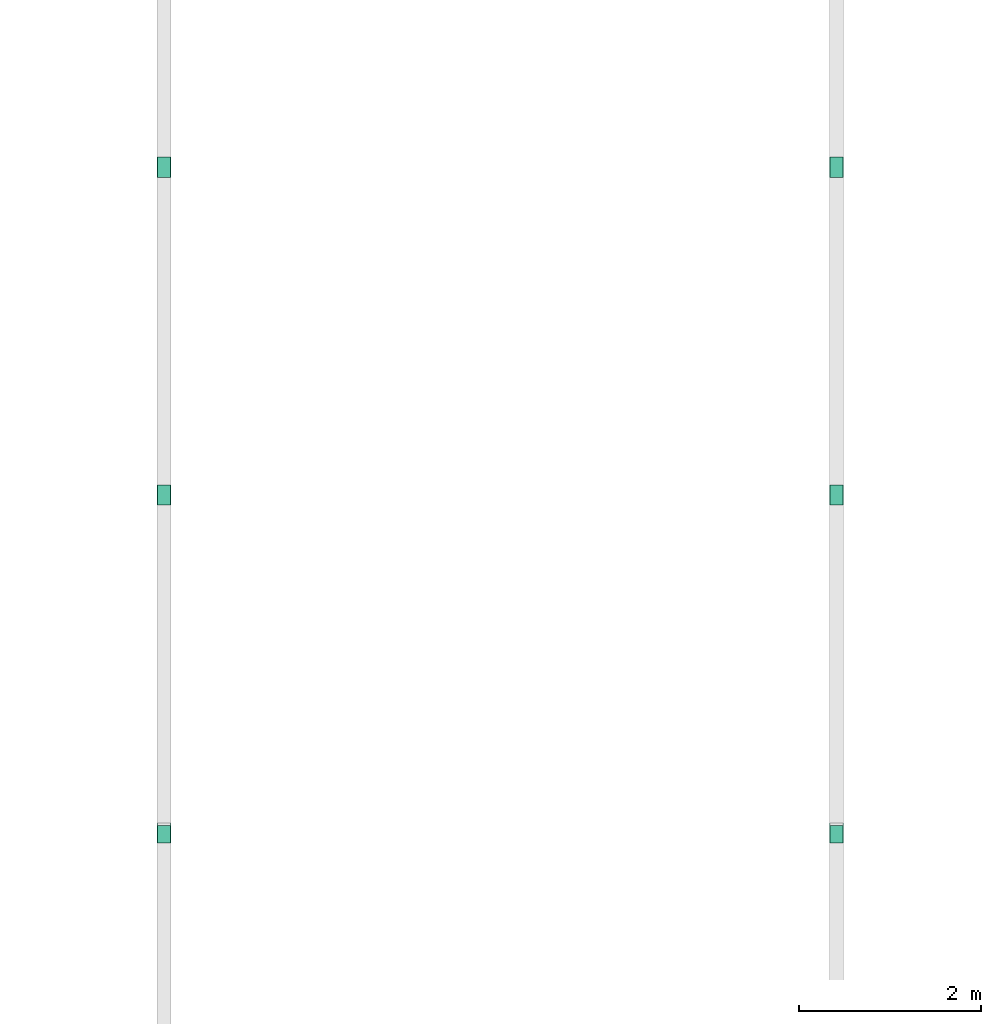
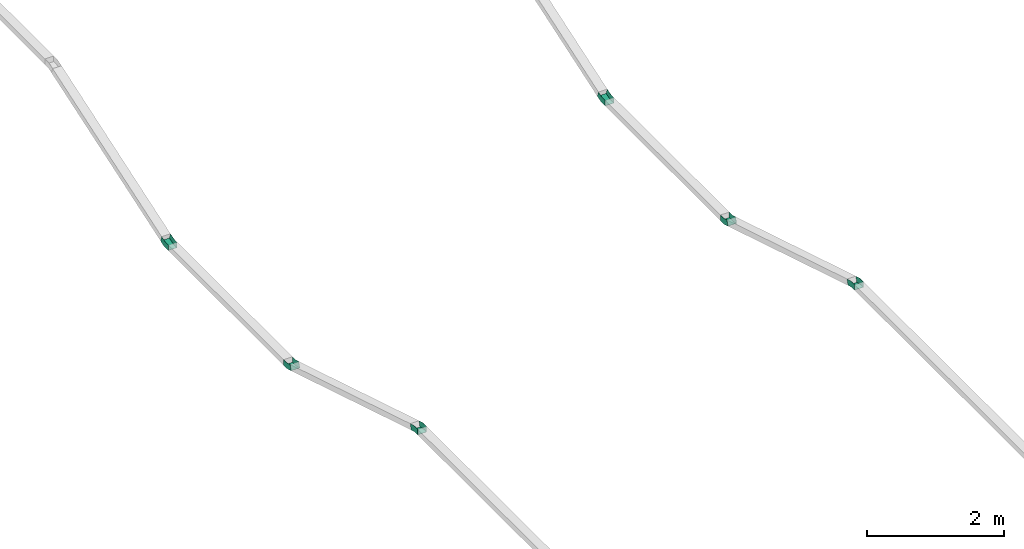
# One storey, part 40 of 197: 6 flow fittings.
"""IFC2X3 building model written with IfcOpenShell, lengths in metres."""

from ifc_helpers import new_model, entity, si_unit, converted_unit, direction, frame, origin, place, context, subcontext, project, spatial, faceted_brep, source, transform, mapped, material, type_object, type_shapes, element, save


model = new_model("IFC2X3")

# Units and contexts
model_context = context("Model", 3, precision=1e-05, world=origin(), true_north=direction((6.123031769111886e-17, 1.0)))
body_context = subcontext(model_context, "Body", "Model", "MODEL_VIEW")
ifc_project = project(units=[si_unit("LENGTHUNIT", "METRE"), converted_unit("PLANEANGLEUNIT", "DEGREE", entity("IfcPlaneAngleMeasure", 0.017453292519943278), si_unit("PLANEANGLEUNIT", "RADIAN"), dimensions=[0, 0, 0, 0, 0, 0, 0]), si_unit("AREAUNIT", "SQUARE_METRE")], contexts=[model_context])

# Site, building, storey
site_placement = place(None, origin())
site = spatial("IfcSite", under=ifc_project, at=site_placement, Name="Default", CompositionType="ELEMENT")
building_placement = place(site_placement, origin())
building = spatial("IfcBuilding", under=site, at=building_placement, CompositionType="ELEMENT")
storey_placement = place(building_placement, origin())
storey = spatial("IfcBuildingStorey", under=building, at=storey_placement, Name="Niveau 0", CompositionType="ELEMENT", Elevation=0.0)

# Flow fittings
ifc_material = material(Name="<Unnamed>")
cable_carrier_fitting_type_1 = type_object("IfcCableCarrierFittingType", Name="Chemin de câbles - Courbure convexe:CDC CFO", PredefinedType="NOTDEFINED", material=ifc_material)
shared_shape_1 = source(origin(), body_context, "Body", "Brep", [
    faceted_brep([(-0.10489020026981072, -0.050000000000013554, -0.07500000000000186), (-0.10489020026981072, -0.050000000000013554, -0.07246000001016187), (-0.10489020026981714, 0.04746000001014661, -0.07246000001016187), (-0.10489020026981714, 0.047460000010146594, 0.07246000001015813), (-0.10489020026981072, -0.050000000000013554, 0.07246000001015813), (-0.10489020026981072, -0.050000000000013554, 0.07499999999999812), (-0.10489020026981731, 0.04999999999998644, 0.07499999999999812), (-0.10489020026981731, 0.04999999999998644, -0.07500000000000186), (-0.029890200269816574, -0.050000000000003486, 0.07499999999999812), (-0.021295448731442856, -0.04936129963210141, 0.07499999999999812), (-0.011414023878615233, -0.048626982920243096, 0.07499999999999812), (-0.00217593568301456, -0.0479404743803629, 0.07499999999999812), (0.007062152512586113, -0.0472539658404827, 0.07499999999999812), (0.016097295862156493, -0.045209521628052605, 0.07499999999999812), (0.025132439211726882, -0.04316507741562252, 0.07499999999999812), (0.03479678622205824, -0.04097825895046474, 0.07499999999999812), (0.04320272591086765, -0.03907618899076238, 0.07499999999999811), (0.11492558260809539, -0.017148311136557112, 0.0749999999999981), (0.08568841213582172, 0.07848216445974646, 0.0749999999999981), (0.013965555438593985, 0.056554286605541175, 0.07499999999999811), (-0.007718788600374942, 0.05164762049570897, 0.07499999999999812), (-0.029890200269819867, 0.04999999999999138, 0.07499999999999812), (-0.029890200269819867, 0.04999999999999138, -0.07500000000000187), (-0.007718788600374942, 0.05164762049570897, -0.07500000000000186), (0.013965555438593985, 0.05655428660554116, -0.07500000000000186), (0.08568841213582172, 0.07848216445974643, -0.07500000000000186), (0.11492558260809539, -0.017148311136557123, -0.07500000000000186), (0.04320272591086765, -0.039076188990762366, -0.07500000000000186), (0.0347967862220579, -0.040978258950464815, -0.07500000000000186), (0.025132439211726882, -0.04316507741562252, -0.07500000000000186), (0.01609729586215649, -0.045209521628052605, -0.07500000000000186), (0.007062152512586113, -0.0472539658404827, -0.07500000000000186), (-0.002819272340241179, -0.047988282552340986, -0.07500000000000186), (-0.012700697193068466, -0.04872259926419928, -0.07500000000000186), (-0.029890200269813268, -0.050000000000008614, -0.07500000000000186), (-0.029890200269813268, -0.050000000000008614, -0.07246000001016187), (-0.029890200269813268, -0.050000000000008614, 0.07246000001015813), (-0.020652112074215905, -0.049313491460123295, -0.07246000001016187), (-0.011414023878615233, -0.048626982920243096, -0.07246000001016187), (-0.0021759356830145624, -0.0479404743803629, -0.07246000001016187), (0.007062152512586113, -0.0472539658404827, -0.07246000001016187), (0.016097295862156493, -0.045209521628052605, -0.07246000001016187), (0.02513243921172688, -0.04316507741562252, -0.07246000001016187), (0.03416758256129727, -0.041120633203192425, -0.07246000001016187), (0.04320272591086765, -0.03907618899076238, -0.07246000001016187), (0.11492558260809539, -0.017148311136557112, -0.07246000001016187), (0.08643103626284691, 0.07605315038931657, -0.07246000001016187), (0.01470817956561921, 0.0541252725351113, -0.07246000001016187), (-0.007343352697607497, 0.04913552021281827, -0.07246000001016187), (-0.029890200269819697, 0.047460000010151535, -0.07246000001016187), (-0.029890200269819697, 0.04746000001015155, 0.07246000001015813), (-0.007343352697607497, 0.04913552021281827, 0.07246000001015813), (0.014708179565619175, 0.05412527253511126, 0.07246000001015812), (0.08643103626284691, 0.07605315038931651, 0.07246000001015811), (0.11492558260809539, -0.01714831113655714, 0.07246000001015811), (0.04320272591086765, -0.039076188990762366, 0.07246000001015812), (0.03416758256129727, -0.041120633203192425, 0.07246000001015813), (0.02513243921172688, -0.04316507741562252, 0.07246000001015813), (0.01609729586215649, -0.045209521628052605, 0.07246000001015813), (0.007062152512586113, -0.0472539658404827, 0.07246000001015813), (-0.0021759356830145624, -0.0479404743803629, 0.07246000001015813), (-0.011414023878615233, -0.048626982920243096, 0.07246000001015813), (-0.020652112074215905, -0.049313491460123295, 0.07246000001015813)], [[[0, 1, 2, 3, 4, 5, 6, 7]], [[5, 8, 9, 10, 11, 12, 13, 14, 15, 16, 17, 18, 19, 20, 21, 6]], [[7, 6, 21, 22]], [[7, 22, 23, 24, 25, 26, 27, 28, 29, 30, 31, 32, 33, 34, 0]], [[1, 0, 34, 35]], [[5, 4, 36, 8]], [[1, 35, 37, 38, 39, 40, 41, 42, 43, 44, 45, 46, 47, 48, 49, 2]], [[3, 2, 49, 50]], [[3, 50, 51, 52, 53, 54, 55, 56, 57, 58, 59, 60, 61, 62, 36, 4]], [[22, 21, 20, 23]], [[19, 24, 23, 20]], [[38, 37, 35, 34, 33, 32, 31, 40, 39]], [[9, 8, 36, 62, 61, 60, 59, 12, 11, 10]], [[28, 27, 44, 43, 42, 41, 40, 31, 30, 29]], [[12, 59, 58, 57, 56, 55, 16, 15, 14, 13]], [[51, 50, 49, 48]], [[51, 48, 47, 52]], [[25, 18, 17, 54, 53, 46, 45, 26]], [[24, 19, 18, 25]], [[44, 27, 26, 45]], [[16, 55, 54, 17]], [[52, 47, 46, 53]]]),
])
type_shapes(cable_carrier_fitting_type_1, [shared_shape_1])
flow_fitting_1_placement = place(storey_placement, frame((-502.73698006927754, 138.78951308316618, 2.7499999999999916), z_axis=(-1.0, 0.0, 0.0), x_axis=(0.0, 1.0, 0.0)))
element("IfcFlowFitting", 1, at=flow_fitting_1_placement, inside=storey, type_object=cable_carrier_fitting_type_1, material=ifc_material, Name="Chemin de câbles - Courbure convexe:CDC CFO", ObjectType="Chemin de câbles - Courbure convexe:CDC CFO", context=body_context, shape_type="MappedRepresentation", body=[
    mapped(shared_shape_1, transform((0.0, 0.0, 0.0), scale=1.0)),
])
cable_carrier_fitting_type_2 = type_object("IfcCableCarrierFittingType", Name="Chemin de câbles - Courbure concave:CDC CFO", PredefinedType="NOTDEFINED", material=ifc_material)
shared_shape_2 = source(origin(), body_context, "Body", "Brep", [
    faceted_brep([(-0.10489020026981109, -0.047460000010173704, -0.07246000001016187), (-0.10489020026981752, 0.04999999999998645, -0.07246000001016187), (-0.10489020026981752, 0.04999999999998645, -0.07500000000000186), (-0.10489020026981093, -0.05000000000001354, -0.07500000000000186), (-0.10489020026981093, -0.05000000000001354, 0.07499999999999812), (-0.10489020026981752, 0.04999999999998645, 0.07499999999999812), (-0.10489020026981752, 0.04999999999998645, 0.07246000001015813), (-0.10489020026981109, -0.04746000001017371, 0.07246000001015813), (-0.02989020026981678, -0.050000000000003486, 0.07499999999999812), (0.007062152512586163, -0.047253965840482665, 0.07499999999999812), (0.04320272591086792, -0.03907618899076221, 0.07499999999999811), (0.11492558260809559, -0.01714831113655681, 0.0749999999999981), (0.08568841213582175, 0.07848216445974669, 0.0749999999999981), (0.013965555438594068, 0.05655428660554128, 0.07499999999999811), (0.0031233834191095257, 0.05410095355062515, 0.07499999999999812), (-0.00771878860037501, 0.05164762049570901, 0.07499999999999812), (-0.01880449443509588, 0.05082381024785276, 0.07499999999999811), (-0.029890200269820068, 0.04999999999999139, 0.07499999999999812), (-0.02989020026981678, -0.0500000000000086, -0.07500000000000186), (-0.02989020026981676, 0.04999999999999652, -0.07500000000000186), (-0.016575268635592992, 0.05098947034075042, -0.07500000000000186), (-0.00771878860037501, 0.05164762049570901, -0.07500000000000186), (0.0009431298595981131, 0.05360761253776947, -0.07500000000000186), (0.013965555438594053, 0.056554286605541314, -0.07500000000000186), (0.08568841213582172, 0.0784821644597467, -0.07500000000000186), (0.11492558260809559, -0.017148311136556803, -0.07500000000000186), (0.043202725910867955, -0.03907618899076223, -0.07500000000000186), (0.007062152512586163, -0.047253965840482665, -0.07500000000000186), (-0.02989020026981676, 0.04999999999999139, -0.07246000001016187), (-0.02989020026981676, 0.04999999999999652, 0.07246000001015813), (-0.02989020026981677, -0.047460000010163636, -0.07246000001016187), (0.006686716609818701, -0.04474186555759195, -0.07246000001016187), (0.0424601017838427, -0.03664717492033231, -0.07246000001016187), (0.11418295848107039, -0.014719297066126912, -0.07246000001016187), (0.08568841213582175, 0.07848216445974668, -0.07246000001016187), (0.013965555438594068, 0.05655428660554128, -0.07246000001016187), (0.0031233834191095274, 0.05410095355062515, -0.07246000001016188), (-0.00771878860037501, 0.05164762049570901, -0.07246000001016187), (-0.01880449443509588, 0.05082381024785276, -0.07246000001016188), (-0.02989020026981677, -0.047460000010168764, 0.07246000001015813), (-0.01880449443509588, 0.05082381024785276, 0.07246000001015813), (-0.00771878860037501, 0.05164762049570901, 0.07246000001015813), (0.003123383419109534, 0.05410095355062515, 0.07246000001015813), (0.013965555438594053, 0.05655428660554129, 0.07246000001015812), (0.08568841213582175, 0.07848216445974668, 0.07246000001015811), (0.11418295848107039, -0.014719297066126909, 0.07246000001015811), (0.042460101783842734, -0.036647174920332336, 0.07246000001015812), (0.006686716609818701, -0.04474186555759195, 0.07246000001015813)], [[[0, 1, 2, 3, 4, 5, 6, 7]], [[4, 8, 9, 10, 11, 12, 13, 14, 15, 16, 17, 5]], [[4, 3, 18, 8]], [[2, 19, 20, 21, 22, 23, 24, 25, 26, 27, 18, 3]], [[2, 1, 28, 19]], [[6, 5, 17, 29]], [[0, 30, 31, 32, 33, 34, 35, 36, 37, 38, 28, 1]], [[0, 7, 39, 30]], [[6, 29, 40, 41, 42, 43, 44, 45, 46, 47, 39, 7]], [[9, 8, 18, 27]], [[9, 27, 26, 10]], [[21, 20, 19, 28, 38, 37]], [[17, 16, 15, 41, 40, 29]], [[36, 35, 23, 22, 21, 37]], [[15, 14, 13, 43, 42, 41]], [[31, 30, 39, 47]], [[46, 32, 31, 47]], [[24, 34, 33, 45, 44, 12, 11, 25]], [[10, 26, 25, 11]], [[23, 35, 34, 24]], [[43, 13, 12, 44]], [[32, 46, 45, 33]]]),
])
type_shapes(cable_carrier_fitting_type_2, [shared_shape_2])
flow_fitting_2_placement = place(storey_placement, frame((-502.73698006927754, 142.5085822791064, 1.6129664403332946), z_axis=(1.0, 0.0, 0.0), x_axis=(0.0, 0.9563047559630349, -0.2923717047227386)))
element("IfcFlowFitting", 2, at=flow_fitting_2_placement, inside=storey, type_object=cable_carrier_fitting_type_2, material=ifc_material, Name="Chemin de câbles - Courbure concave:CDC CFO", ObjectType="Chemin de câbles - Courbure concave:CDC CFO", context=body_context, shape_type="MappedRepresentation", body=[
    mapped(shared_shape_2, transform((0.0, 0.0, 0.0), scale=1.0)),
])
cable_carrier_fitting_type_3 = type_object("IfcCableCarrierFittingType", Name="Chemin de câbles - Courbure concave:CDC CFO", PredefinedType="NOTDEFINED", material=ifc_material)
shared_shape_3 = source(origin(), body_context, "Body", "Brep", [
    faceted_brep([(-0.10757218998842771, -0.047460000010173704, -0.07246000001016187), (-0.10757218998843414, 0.04999999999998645, -0.07246000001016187), (-0.10757218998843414, 0.04999999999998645, -0.07500000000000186), (-0.10757218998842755, -0.05000000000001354, -0.07500000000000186), (-0.10757218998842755, -0.05000000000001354, 0.07499999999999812), (-0.10757218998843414, 0.04999999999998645, 0.07499999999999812), (-0.10757218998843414, 0.04999999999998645, 0.07246000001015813), (-0.10757218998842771, -0.04746000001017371, 0.07246000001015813), (-0.0325721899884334, -0.050000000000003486, 0.07499999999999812), (0.007613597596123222, -0.046749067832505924, 0.07499999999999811), (0.046754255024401, -0.03708081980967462, 0.07499999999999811), (0.11787850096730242, -0.013282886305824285, 0.0749999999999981), (0.08614792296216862, 0.08154944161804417, 0.0749999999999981), (0.01502367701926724, 0.057751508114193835, 0.07499999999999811), (0.0032814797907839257, 0.05485103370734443, 0.07499999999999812), (-0.008460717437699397, 0.05195055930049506, 0.07499999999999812), (-0.020516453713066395, 0.050975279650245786, 0.07499999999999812), (-0.032572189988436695, 0.04999999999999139, 0.07499999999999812), (-0.0325721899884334, -0.0500000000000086, -0.07500000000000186), (-0.032572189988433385, 0.04999999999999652, -0.07500000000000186), (-0.01926626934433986, 0.05107641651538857, -0.07500000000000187), (-0.008460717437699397, 0.05195055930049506, -0.07500000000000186), (0.00206380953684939, 0.05455025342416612, -0.07500000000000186), (0.015023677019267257, 0.05775150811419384, -0.07500000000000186), (0.08614792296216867, 0.08154944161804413, -0.07500000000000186), (0.11787850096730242, -0.013282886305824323, -0.07500000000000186), (0.046754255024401, -0.03708081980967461, -0.07500000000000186), (0.007613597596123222, -0.046749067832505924, -0.07500000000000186), (-0.032572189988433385, 0.04999999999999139, -0.07246000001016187), (-0.032572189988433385, 0.04999999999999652, 0.07246000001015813), (-0.03257218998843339, -0.047460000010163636, -0.07246000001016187), (0.007205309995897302, -0.04424209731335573, -0.07246000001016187), (0.04594829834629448, -0.03467207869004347, -0.07246000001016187), (0.1170725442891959, -0.010874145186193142, -0.07246000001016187), (0.08614792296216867, 0.08154944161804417, -0.07246000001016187), (0.01502367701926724, 0.057751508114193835, -0.07246000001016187), (0.0032814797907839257, 0.05485103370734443, -0.07246000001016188), (-0.008460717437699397, 0.05195055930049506, -0.07246000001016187), (-0.020516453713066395, 0.050975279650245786, -0.07246000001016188), (-0.03257218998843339, -0.047460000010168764, 0.07246000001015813), (-0.020516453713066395, 0.050975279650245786, 0.07246000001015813), (-0.008460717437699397, 0.05195055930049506, 0.07246000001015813), (0.0032814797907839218, 0.054851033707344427, 0.07246000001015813), (0.01502367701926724, 0.057751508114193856, 0.07246000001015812), (0.08614792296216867, 0.08154944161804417, 0.07246000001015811), (0.11707254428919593, -0.010874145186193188, 0.07246000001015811), (0.04594829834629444, -0.0346720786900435, 0.07246000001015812), (0.007205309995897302, -0.04424209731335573, 0.07246000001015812)], [[[0, 1, 2, 3, 4, 5, 6, 7]], [[4, 8, 9, 10, 11, 12, 13, 14, 15, 16, 17, 5]], [[4, 3, 18, 8]], [[2, 19, 20, 21, 22, 23, 24, 25, 26, 27, 18, 3]], [[2, 1, 28, 19]], [[6, 5, 17, 29]], [[0, 30, 31, 32, 33, 34, 35, 36, 37, 38, 28, 1]], [[0, 7, 39, 30]], [[6, 29, 40, 41, 42, 43, 44, 45, 46, 47, 39, 7]], [[8, 18, 27, 9]], [[9, 27, 26, 10]], [[21, 20, 19, 28, 38, 37]], [[17, 16, 15, 41, 40, 29]], [[36, 35, 23, 22, 21, 37]], [[15, 14, 13, 43, 42, 41]], [[31, 30, 39, 47]], [[46, 32, 31, 47]], [[24, 34, 33, 45, 44, 12, 11, 25]], [[10, 26, 25, 11]], [[23, 35, 34, 24]], [[43, 13, 12, 44]], [[32, 46, 45, 33]]]),
])
type_shapes(cable_carrier_fitting_type_3, [shared_shape_3])
flow_fitting_3_placement = place(storey_placement, frame((-502.73698006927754, 146.09958227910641, 1.6129664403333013), z_axis=(1.0, 0.0, 0.0), x_axis=(0.0, 1.0, 0.0)))
element("IfcFlowFitting", 3, at=flow_fitting_3_placement, inside=storey, type_object=cable_carrier_fitting_type_3, material=ifc_material, Name="Chemin de câbles - Courbure concave:CDC CFO", ObjectType="Chemin de câbles - Courbure concave:CDC CFO", context=body_context, shape_type="MappedRepresentation", body=[
    mapped(shared_shape_3, transform((0.0, 0.0, 0.0), scale=1.0)),
])
cable_carrier_fitting_type_4 = type_object("IfcCableCarrierFittingType", Name="Chemin de câbles - Courbure convexe:CDC INCENDIE", PredefinedType="NOTDEFINED", material=ifc_material)
shared_shape_4 = source(origin(), body_context, "Body", "Brep", [
    faceted_brep([(-0.10489020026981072, -0.050000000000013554, -0.07500000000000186), (-0.10489020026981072, -0.050000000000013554, -0.07246000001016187), (-0.10489020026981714, 0.04746000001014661, -0.07246000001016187), (-0.10489020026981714, 0.047460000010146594, 0.07246000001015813), (-0.10489020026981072, -0.050000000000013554, 0.07246000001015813), (-0.10489020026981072, -0.050000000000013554, 0.07499999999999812), (-0.10489020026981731, 0.04999999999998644, 0.07499999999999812), (-0.10489020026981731, 0.04999999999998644, -0.07500000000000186), (-0.029890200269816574, -0.050000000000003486, 0.07499999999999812), (-0.021295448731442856, -0.04936129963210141, 0.07499999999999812), (-0.011414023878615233, -0.048626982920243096, 0.07499999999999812), (-0.00217593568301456, -0.0479404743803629, 0.07499999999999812), (0.007062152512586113, -0.0472539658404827, 0.07499999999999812), (0.016097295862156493, -0.045209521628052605, 0.07499999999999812), (0.025132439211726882, -0.04316507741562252, 0.07499999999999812), (0.03479678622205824, -0.04097825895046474, 0.07499999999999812), (0.04320272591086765, -0.03907618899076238, 0.07499999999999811), (0.11492558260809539, -0.017148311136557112, 0.0749999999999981), (0.08568841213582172, 0.07848216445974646, 0.0749999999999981), (0.013965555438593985, 0.056554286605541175, 0.07499999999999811), (-0.007718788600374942, 0.05164762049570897, 0.07499999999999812), (-0.029890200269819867, 0.04999999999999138, 0.07499999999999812), (-0.029890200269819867, 0.04999999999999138, -0.07500000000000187), (-0.007718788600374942, 0.05164762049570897, -0.07500000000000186), (0.013965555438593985, 0.05655428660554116, -0.07500000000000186), (0.08568841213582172, 0.07848216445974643, -0.07500000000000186), (0.11492558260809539, -0.017148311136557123, -0.07500000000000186), (0.04320272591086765, -0.039076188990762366, -0.07500000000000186), (0.0347967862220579, -0.040978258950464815, -0.07500000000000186), (0.025132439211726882, -0.04316507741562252, -0.07500000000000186), (0.01609729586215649, -0.045209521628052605, -0.07500000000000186), (0.007062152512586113, -0.0472539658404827, -0.07500000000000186), (-0.002819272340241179, -0.047988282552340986, -0.07500000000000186), (-0.012700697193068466, -0.04872259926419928, -0.07500000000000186), (-0.029890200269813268, -0.050000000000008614, -0.07500000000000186), (-0.029890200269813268, -0.050000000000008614, -0.07246000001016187), (-0.029890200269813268, -0.050000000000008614, 0.07246000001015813), (-0.020652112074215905, -0.049313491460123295, -0.07246000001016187), (-0.011414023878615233, -0.048626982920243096, -0.07246000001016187), (-0.0021759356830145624, -0.0479404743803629, -0.07246000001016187), (0.007062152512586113, -0.0472539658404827, -0.07246000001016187), (0.016097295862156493, -0.045209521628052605, -0.07246000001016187), (0.02513243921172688, -0.04316507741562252, -0.07246000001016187), (0.03416758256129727, -0.041120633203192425, -0.07246000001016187), (0.04320272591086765, -0.03907618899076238, -0.07246000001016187), (0.11492558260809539, -0.017148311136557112, -0.07246000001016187), (0.08643103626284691, 0.07605315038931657, -0.07246000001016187), (0.01470817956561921, 0.0541252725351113, -0.07246000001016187), (-0.007343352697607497, 0.04913552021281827, -0.07246000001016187), (-0.029890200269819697, 0.047460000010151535, -0.07246000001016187), (-0.029890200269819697, 0.04746000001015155, 0.07246000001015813), (-0.007343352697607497, 0.04913552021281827, 0.07246000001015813), (0.014708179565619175, 0.05412527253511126, 0.07246000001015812), (0.08643103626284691, 0.07605315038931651, 0.07246000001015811), (0.11492558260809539, -0.01714831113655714, 0.07246000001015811), (0.04320272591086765, -0.039076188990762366, 0.07246000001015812), (0.03416758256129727, -0.041120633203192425, 0.07246000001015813), (0.02513243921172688, -0.04316507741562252, 0.07246000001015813), (0.01609729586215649, -0.045209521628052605, 0.07246000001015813), (0.007062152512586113, -0.0472539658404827, 0.07246000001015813), (-0.0021759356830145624, -0.0479404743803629, 0.07246000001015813), (-0.011414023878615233, -0.048626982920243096, 0.07246000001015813), (-0.020652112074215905, -0.049313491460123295, 0.07246000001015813)], [[[0, 1, 2, 3, 4, 5, 6, 7]], [[5, 8, 9, 10, 11, 12, 13, 14, 15, 16, 17, 18, 19, 20, 21, 6]], [[7, 6, 21, 22]], [[7, 22, 23, 24, 25, 26, 27, 28, 29, 30, 31, 32, 33, 34, 0]], [[1, 0, 34, 35]], [[5, 4, 36, 8]], [[1, 35, 37, 38, 39, 40, 41, 42, 43, 44, 45, 46, 47, 48, 49, 2]], [[3, 2, 49, 50]], [[3, 50, 51, 52, 53, 54, 55, 56, 57, 58, 59, 60, 61, 62, 36, 4]], [[22, 21, 20, 23]], [[19, 24, 23, 20]], [[38, 37, 35, 34, 33, 32, 31, 40, 39]], [[9, 8, 36, 62, 61, 60, 59, 12, 11, 10]], [[28, 27, 44, 43, 42, 41, 40, 31, 30, 29]], [[12, 59, 58, 57, 56, 55, 16, 15, 14, 13]], [[51, 50, 49, 48]], [[51, 48, 47, 52]], [[25, 18, 17, 54, 53, 46, 45, 26]], [[24, 19, 18, 25]], [[44, 27, 26, 45]], [[16, 55, 54, 17]], [[52, 47, 46, 53]]]),
])
type_shapes(cable_carrier_fitting_type_4, [shared_shape_4])
flow_fitting_4_placement = place(storey_placement, frame((-495.349980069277, 138.78951308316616, 2.7499999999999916), z_axis=(-1.0, 0.0, 0.0), x_axis=(0.0, 1.0, 0.0)))
element("IfcFlowFitting", 4, at=flow_fitting_4_placement, inside=storey, type_object=cable_carrier_fitting_type_4, material=ifc_material, Name="Chemin de câbles - Courbure convexe:CDC INCENDIE", ObjectType="Chemin de câbles - Courbure convexe:CDC INCENDIE", context=body_context, shape_type="MappedRepresentation", body=[
    mapped(shared_shape_4, transform((0.0, 0.0, 0.0), scale=1.0)),
])
cable_carrier_fitting_type_5 = type_object("IfcCableCarrierFittingType", Name="Chemin de câbles - Courbure concave:CDC INCENDIE", PredefinedType="NOTDEFINED", material=ifc_material)
shared_shape_5 = source(origin(), body_context, "Body", "Brep", [
    faceted_brep([(-0.10489020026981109, -0.047460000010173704, -0.07246000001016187), (-0.10489020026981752, 0.04999999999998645, -0.07246000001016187), (-0.10489020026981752, 0.04999999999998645, -0.07500000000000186), (-0.10489020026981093, -0.05000000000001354, -0.07500000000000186), (-0.10489020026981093, -0.05000000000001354, 0.07499999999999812), (-0.10489020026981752, 0.04999999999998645, 0.07499999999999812), (-0.10489020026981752, 0.04999999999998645, 0.07246000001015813), (-0.10489020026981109, -0.04746000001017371, 0.07246000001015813), (-0.02989020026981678, -0.050000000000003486, 0.07499999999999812), (0.007062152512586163, -0.047253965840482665, 0.07499999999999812), (0.04320272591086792, -0.03907618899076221, 0.07499999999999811), (0.11492558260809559, -0.01714831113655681, 0.0749999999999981), (0.08568841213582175, 0.07848216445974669, 0.0749999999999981), (0.013965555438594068, 0.05655428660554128, 0.07499999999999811), (0.0031233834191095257, 0.05410095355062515, 0.07499999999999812), (-0.00771878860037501, 0.05164762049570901, 0.07499999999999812), (-0.01880449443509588, 0.05082381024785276, 0.07499999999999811), (-0.029890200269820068, 0.04999999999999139, 0.07499999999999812), (-0.02989020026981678, -0.0500000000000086, -0.07500000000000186), (-0.02989020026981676, 0.04999999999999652, -0.07500000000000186), (-0.016575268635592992, 0.05098947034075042, -0.07500000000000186), (-0.00771878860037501, 0.05164762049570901, -0.07500000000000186), (0.0009431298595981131, 0.05360761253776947, -0.07500000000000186), (0.013965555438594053, 0.056554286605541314, -0.07500000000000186), (0.08568841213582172, 0.0784821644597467, -0.07500000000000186), (0.11492558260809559, -0.017148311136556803, -0.07500000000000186), (0.043202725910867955, -0.03907618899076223, -0.07500000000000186), (0.007062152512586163, -0.047253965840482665, -0.07500000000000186), (-0.02989020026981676, 0.04999999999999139, -0.07246000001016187), (-0.02989020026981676, 0.04999999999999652, 0.07246000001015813), (-0.02989020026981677, -0.047460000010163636, -0.07246000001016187), (0.006686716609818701, -0.04474186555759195, -0.07246000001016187), (0.0424601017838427, -0.03664717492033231, -0.07246000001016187), (0.11418295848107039, -0.014719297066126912, -0.07246000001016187), (0.08568841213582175, 0.07848216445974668, -0.07246000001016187), (0.013965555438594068, 0.05655428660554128, -0.07246000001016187), (0.0031233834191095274, 0.05410095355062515, -0.07246000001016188), (-0.00771878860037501, 0.05164762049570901, -0.07246000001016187), (-0.01880449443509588, 0.05082381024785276, -0.07246000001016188), (-0.02989020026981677, -0.047460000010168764, 0.07246000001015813), (-0.01880449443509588, 0.05082381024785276, 0.07246000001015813), (-0.00771878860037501, 0.05164762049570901, 0.07246000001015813), (0.003123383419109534, 0.05410095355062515, 0.07246000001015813), (0.013965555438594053, 0.05655428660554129, 0.07246000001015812), (0.08568841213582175, 0.07848216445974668, 0.07246000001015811), (0.11418295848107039, -0.014719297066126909, 0.07246000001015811), (0.042460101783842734, -0.036647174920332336, 0.07246000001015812), (0.006686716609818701, -0.04474186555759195, 0.07246000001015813)], [[[0, 1, 2, 3, 4, 5, 6, 7]], [[4, 8, 9, 10, 11, 12, 13, 14, 15, 16, 17, 5]], [[4, 3, 18, 8]], [[2, 19, 20, 21, 22, 23, 24, 25, 26, 27, 18, 3]], [[2, 1, 28, 19]], [[6, 5, 17, 29]], [[0, 30, 31, 32, 33, 34, 35, 36, 37, 38, 28, 1]], [[0, 7, 39, 30]], [[6, 29, 40, 41, 42, 43, 44, 45, 46, 47, 39, 7]], [[9, 8, 18, 27]], [[9, 27, 26, 10]], [[21, 20, 19, 28, 38, 37]], [[17, 16, 15, 41, 40, 29]], [[36, 35, 23, 22, 21, 37]], [[15, 14, 13, 43, 42, 41]], [[31, 30, 39, 47]], [[46, 32, 31, 47]], [[24, 34, 33, 45, 44, 12, 11, 25]], [[10, 26, 25, 11]], [[23, 35, 34, 24]], [[43, 13, 12, 44]], [[32, 46, 45, 33]]]),
])
type_shapes(cable_carrier_fitting_type_5, [shared_shape_5])
flow_fitting_5_placement = place(storey_placement, frame((-495.349980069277, 142.5085822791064, 1.6129664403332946), z_axis=(1.0, 0.0, 0.0), x_axis=(0.0, 0.9563047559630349, -0.2923717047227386)))
element("IfcFlowFitting", 5, at=flow_fitting_5_placement, inside=storey, type_object=cable_carrier_fitting_type_5, material=ifc_material, Name="Chemin de câbles - Courbure concave:CDC INCENDIE", ObjectType="Chemin de câbles - Courbure concave:CDC INCENDIE", context=body_context, shape_type="MappedRepresentation", body=[
    mapped(shared_shape_5, transform((0.0, 0.0, 0.0), scale=1.0)),
])
cable_carrier_fitting_type_6 = type_object("IfcCableCarrierFittingType", Name="Chemin de câbles - Courbure concave:CDC INCENDIE", PredefinedType="NOTDEFINED", material=ifc_material)
shared_shape_6 = source(origin(), body_context, "Body", "Brep", [
    faceted_brep([(-0.10757218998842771, -0.047460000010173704, -0.07246000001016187), (-0.10757218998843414, 0.04999999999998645, -0.07246000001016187), (-0.10757218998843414, 0.04999999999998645, -0.07500000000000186), (-0.10757218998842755, -0.05000000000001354, -0.07500000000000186), (-0.10757218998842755, -0.05000000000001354, 0.07499999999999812), (-0.10757218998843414, 0.04999999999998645, 0.07499999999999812), (-0.10757218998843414, 0.04999999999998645, 0.07246000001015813), (-0.10757218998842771, -0.04746000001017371, 0.07246000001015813), (-0.0325721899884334, -0.050000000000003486, 0.07499999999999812), (0.007613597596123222, -0.046749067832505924, 0.07499999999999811), (0.046754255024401, -0.03708081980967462, 0.07499999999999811), (0.11787850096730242, -0.013282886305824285, 0.0749999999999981), (0.08614792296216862, 0.08154944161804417, 0.0749999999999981), (0.01502367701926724, 0.057751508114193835, 0.07499999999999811), (0.0032814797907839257, 0.05485103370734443, 0.07499999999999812), (-0.008460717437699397, 0.05195055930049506, 0.07499999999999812), (-0.020516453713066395, 0.050975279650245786, 0.07499999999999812), (-0.032572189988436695, 0.04999999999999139, 0.07499999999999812), (-0.0325721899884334, -0.0500000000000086, -0.07500000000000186), (-0.032572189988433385, 0.04999999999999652, -0.07500000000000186), (-0.01926626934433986, 0.05107641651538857, -0.07500000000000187), (-0.008460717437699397, 0.05195055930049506, -0.07500000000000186), (0.00206380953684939, 0.05455025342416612, -0.07500000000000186), (0.015023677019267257, 0.05775150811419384, -0.07500000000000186), (0.08614792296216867, 0.08154944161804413, -0.07500000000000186), (0.11787850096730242, -0.013282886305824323, -0.07500000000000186), (0.046754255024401, -0.03708081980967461, -0.07500000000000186), (0.007613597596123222, -0.046749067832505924, -0.07500000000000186), (-0.032572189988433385, 0.04999999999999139, -0.07246000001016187), (-0.032572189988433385, 0.04999999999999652, 0.07246000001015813), (-0.03257218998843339, -0.047460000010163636, -0.07246000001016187), (0.007205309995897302, -0.04424209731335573, -0.07246000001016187), (0.04594829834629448, -0.03467207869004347, -0.07246000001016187), (0.1170725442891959, -0.010874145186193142, -0.07246000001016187), (0.08614792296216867, 0.08154944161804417, -0.07246000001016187), (0.01502367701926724, 0.057751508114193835, -0.07246000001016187), (0.0032814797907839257, 0.05485103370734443, -0.07246000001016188), (-0.008460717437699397, 0.05195055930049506, -0.07246000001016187), (-0.020516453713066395, 0.050975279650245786, -0.07246000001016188), (-0.03257218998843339, -0.047460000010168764, 0.07246000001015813), (-0.020516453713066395, 0.050975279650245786, 0.07246000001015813), (-0.008460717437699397, 0.05195055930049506, 0.07246000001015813), (0.0032814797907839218, 0.054851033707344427, 0.07246000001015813), (0.01502367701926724, 0.057751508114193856, 0.07246000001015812), (0.08614792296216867, 0.08154944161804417, 0.07246000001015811), (0.11707254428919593, -0.010874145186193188, 0.07246000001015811), (0.04594829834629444, -0.0346720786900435, 0.07246000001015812), (0.007205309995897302, -0.04424209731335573, 0.07246000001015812)], [[[0, 1, 2, 3, 4, 5, 6, 7]], [[4, 8, 9, 10, 11, 12, 13, 14, 15, 16, 17, 5]], [[4, 3, 18, 8]], [[2, 19, 20, 21, 22, 23, 24, 25, 26, 27, 18, 3]], [[2, 1, 28, 19]], [[6, 5, 17, 29]], [[0, 30, 31, 32, 33, 34, 35, 36, 37, 38, 28, 1]], [[0, 7, 39, 30]], [[6, 29, 40, 41, 42, 43, 44, 45, 46, 47, 39, 7]], [[8, 18, 27, 9]], [[9, 27, 26, 10]], [[21, 20, 19, 28, 38, 37]], [[17, 16, 15, 41, 40, 29]], [[36, 35, 23, 22, 21, 37]], [[15, 14, 13, 43, 42, 41]], [[31, 30, 39, 47]], [[46, 32, 31, 47]], [[24, 34, 33, 45, 44, 12, 11, 25]], [[10, 26, 25, 11]], [[23, 35, 34, 24]], [[43, 13, 12, 44]], [[32, 46, 45, 33]]]),
])
type_shapes(cable_carrier_fitting_type_6, [shared_shape_6])
flow_fitting_6_placement = place(storey_placement, frame((-495.349980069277, 146.09958227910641, 1.6129664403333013), z_axis=(1.0, 0.0, 0.0), x_axis=(0.0, 1.0, 0.0)))
element("IfcFlowFitting", 6, at=flow_fitting_6_placement, inside=storey, type_object=cable_carrier_fitting_type_6, material=ifc_material, Name="Chemin de câbles - Courbure concave:CDC INCENDIE", ObjectType="Chemin de câbles - Courbure concave:CDC INCENDIE", context=body_context, shape_type="MappedRepresentation", body=[
    mapped(shared_shape_6, transform((0.0, 0.0, 0.0), scale=1.0)),
])

save(model, "model.ifc")
